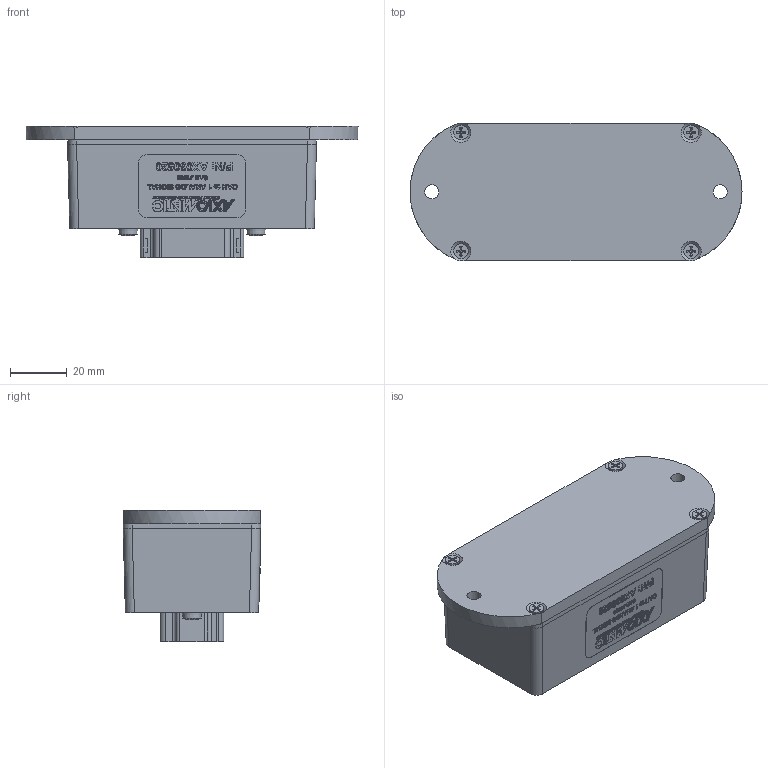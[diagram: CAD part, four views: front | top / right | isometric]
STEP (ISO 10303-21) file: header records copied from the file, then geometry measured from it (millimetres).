
FILE_DESCRIPTION((''),'2;1');
FILE_NAME('S:\Projects\CAN-1AOUT, AX030520, Proj#9008\Unit Assembly\RELEASED\rev A\FG-AX030520-A.stp','2014-02-14T10:51:35',('tfisher'),(''),'Autodesk Inventor 2012','Autodesk Inventor 2012','');
FILE_SCHEMA(('AUTOMOTIVE_DESIGN { 1 0 10303 214 1 1 1 1 }'));
Length unit declared in the file: inch
Products named in the file (1): FG-AX030520-A
Bounding box: 117.3 x 48.65 x 46.3 mm (x, y, z)
Volume: 89131 mm3; surface area: 45127 mm2
Topology: 1 solids, 14 shells, 1889 faces, 5079 edges, 3376 vertices
Faces by surface type: plane 1168, bspline 458, cylinder 149, cone 70, torus 26, sphere 18
Full cylindrical faces by diameter (mm): 1.524 x16, 2.464 x4, 3 x4, 3.048 x4, 3.175 x4, 3.505 x2, 4.978 x2, 5.2 x4, 6.604 x4, 8.128 x2
Entity records: 62331 total; most frequent: CARTESIAN_POINT 17075, ORIENTED_EDGE 9814, DIRECTION 7136, EDGE_CURVE 4907, VECTOR 3358, LINE 3358, VERTEX_POINT 3300, EDGE_LOOP 2155
